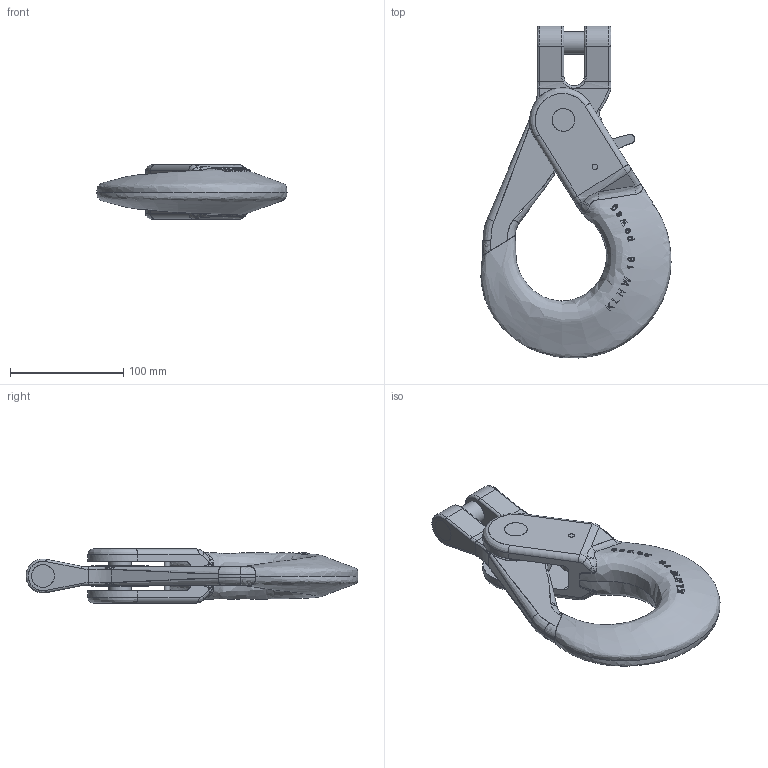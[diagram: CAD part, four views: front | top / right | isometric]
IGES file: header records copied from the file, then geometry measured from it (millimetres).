
Global section: file name: L:\users\SC\3D Kundenmodelle\UG Zg der Ableitung G100\KLHW Kundenmodell\KLHW 16 Kundenmodell\pewag_KLHW_16.igs; native system: NX V4.0; preprocessor: UGS NX IGES V4.0; date: 20100204.123004; units: millimetre
Bounding box: 167.88 x 293.26 x 48 mm (x, y, z)
Surface area: 110460.3 mm2 (no closed solid volume)
Topology: 0 solids, 0 shells, 360 faces, 2348 edges, 2339 vertices
Faces by surface type: bspline 349, offset 11
